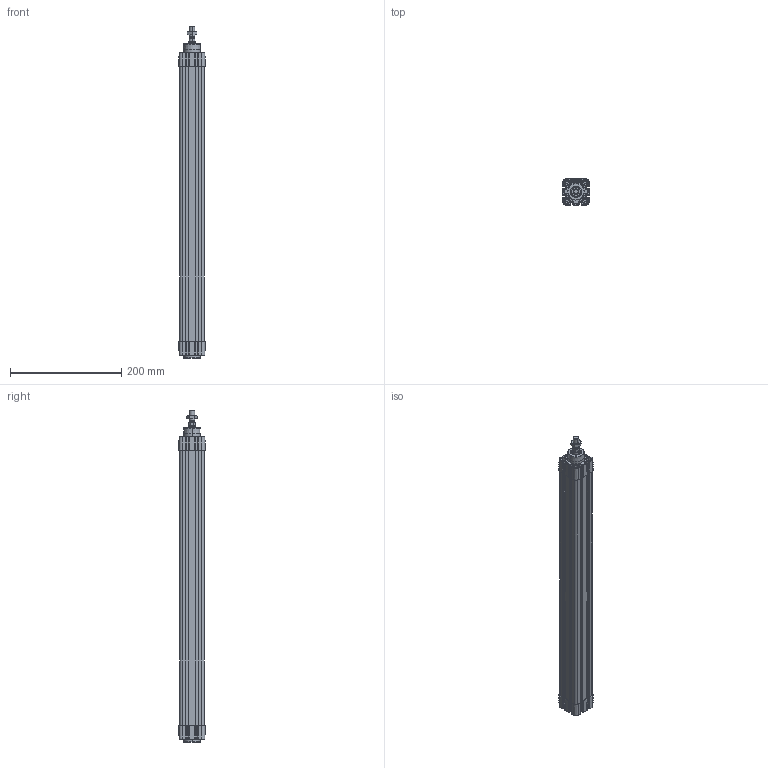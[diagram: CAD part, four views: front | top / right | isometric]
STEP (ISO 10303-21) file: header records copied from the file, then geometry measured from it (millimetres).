
FILE_DESCRIPTION (( 'STEP AP214' ), '1' );
FILE_NAME ('N11M20320450.STEP', '2021-09-27T15:37:58', ( '' ), ( '' ), 'SwSTEP 2.0', 'SolidWorks 2016', '' );
FILE_SCHEMA (( 'AUTOMOTIVE_DESIGN' ));
Length unit declared in the file: millimetre
Products named in the file (7): 000.510.0000_000.510.0450; TP Ø32 ISO 15552 WEB; 21.750.0; 21.A01.0000_21.A01.0450; N11M20320450; Pistone Ø32 ISO 15552; TA Ø32 ISO 15552 WEB
Assembly tree (6 placements, depth 2):
  N11M20320450
    TP Ø32 ISO 15552 WEB
    TA Ø32 ISO 15552 WEB
    Pistone Ø32 ISO 15552
    000.510.0000_000.510.0450
    21.A01.0000_21.A01.0450
    21.750.0
Bounding box: 47.07 x 47.07 x 597 mm (x, y, z)
Volume: 601797.3 mm3; surface area: 287340.8 mm2
Topology: 18 solids, 18 shells, 1629 faces, 4093 edges, 2585 vertices
Faces by surface type: plane 811, cylinder 468, cone 178, torus 98, bspline 74
Entity records: 65607 total; most frequent: CARTESIAN_POINT 10028, DIRECTION 8447, ORIENTED_EDGE 8186, EDGE_CURVE 4093, AXIS2_PLACEMENT_3D 2992, VERTEX_POINT 2585, VECTOR 2463, LINE 2463
